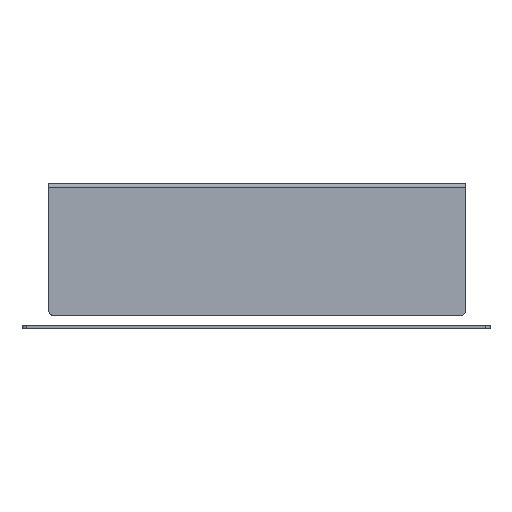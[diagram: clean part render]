
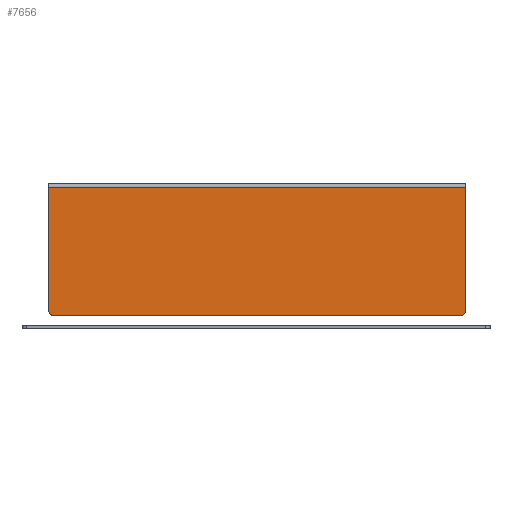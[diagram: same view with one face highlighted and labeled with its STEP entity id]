
A CAD part, front view. The second image highlights one B-rep face of the part: STEP entity #7656.
In plain terms, the highlighted planar face has unit normal (0, -1, 0).
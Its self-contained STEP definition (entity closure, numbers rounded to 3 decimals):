
#7329 = PLANE('',#7330);
#7330 = AXIS2_PLACEMENT_3D('',#7331,#7332,#7333);
#7331 = CARTESIAN_POINT('',(-3.,1.5,56.));
#7332 = DIRECTION('',(1.,0.,0.));
#7333 = DIRECTION('',(0.,0.,-1.));
#7354 = VERTEX_POINT('',#7355);
#7355 = CARTESIAN_POINT('',(-3.,0.5,56.));
#7381 = EDGE_CURVE('',#7354,#7382,#7384,.T.);
#7382 = VERTEX_POINT('',#7383);
#7383 = CARTESIAN_POINT('',(-3.,0.5,1.));
#7384 = SURFACE_CURVE('',#7385,(#7389,#7396),.PCURVE_S1.);
#7385 = LINE('',#7386,#7387);
#7386 = CARTESIAN_POINT('',(-3.,0.5,56.));
#7387 = VECTOR('',#7388,1.);
#7388 = DIRECTION('',(0.,0.,-1.));
#7389 = PCURVE('',#7329,#7390);
#7390 = DEFINITIONAL_REPRESENTATION('',(#7391),#7395);
#7391 = LINE('',#7392,#7393);
#7392 = CARTESIAN_POINT('',(0.,-1.));
#7393 = VECTOR('',#7394,1.);
#7394 = DIRECTION('',(1.,0.));
#7395 = ( GEOMETRIC_REPRESENTATION_CONTEXT(2) 
PARAMETRIC_REPRESENTATION_CONTEXT() REPRESENTATION_CONTEXT('2D SPACE',''
  ) );
#7396 = PCURVE('',#7397,#7402);
#7397 = PLANE('',#7398);
#7398 = AXIS2_PLACEMENT_3D('',#7399,#7400,#7401);
#7399 = CARTESIAN_POINT('',(90.,0.5,27.5));
#7400 = DIRECTION('',(0.,-1.,0.));
#7401 = DIRECTION('',(1.,0.,0.));
#7402 = DEFINITIONAL_REPRESENTATION('',(#7403),#7407);
#7403 = LINE('',#7404,#7405);
#7404 = CARTESIAN_POINT('',(-93.,28.5));
#7405 = VECTOR('',#7406,1.);
#7406 = DIRECTION('',(0.,-1.));
#7407 = ( GEOMETRIC_REPRESENTATION_CONTEXT(2) 
PARAMETRIC_REPRESENTATION_CONTEXT() REPRESENTATION_CONTEXT('2D SPACE',''
  ) );
#7423 = CYLINDRICAL_SURFACE('',#7424,2.);
#7424 = AXIS2_PLACEMENT_3D('',#7425,#7426,#7427);
#7425 = CARTESIAN_POINT('',(-1.,1.5,1.));
#7426 = DIRECTION('',(0.,-1.,0.));
#7427 = DIRECTION('',(-1.,0.,0.));
#7479 = PLANE('',#7480);
#7480 = AXIS2_PLACEMENT_3D('',#7481,#7482,#7483);
#7481 = CARTESIAN_POINT('',(-3.,1.5,-1.));
#7482 = DIRECTION('',(0.,0.,1.));
#7483 = DIRECTION('',(1.,0.,0.));
#7508 = CYLINDRICAL_SURFACE('',#7509,2.);
#7509 = AXIS2_PLACEMENT_3D('',#7510,#7511,#7512);
#7510 = CARTESIAN_POINT('',(181.,1.5,1.));
#7511 = DIRECTION('',(0.,-1.,0.));
#7512 = DIRECTION('',(0.,0.,-1.));
#7536 = PLANE('',#7537);
#7537 = AXIS2_PLACEMENT_3D('',#7538,#7539,#7540);
#7538 = CARTESIAN_POINT('',(183.,1.5,-1.));
#7539 = DIRECTION('',(-1.,0.,0.));
#7540 = DIRECTION('',(0.,0.,1.));
#7619 = CYLINDRICAL_SURFACE('',#7620,2.);
#7620 = AXIS2_PLACEMENT_3D('',#7621,#7622,#7623);
#7621 = CARTESIAN_POINT('',(-3.,2.5,56.));
#7622 = DIRECTION('',(1.,0.,0.));
#7623 = DIRECTION('',(0.,0.,1.));
#7656 = ADVANCED_FACE('',(#7657),#7397,.T.);
#7657 = FACE_BOUND('',#7658,.T.);
#7658 = EDGE_LOOP('',(#7659,#7660,#7684,#7707,#7731,#7754));
#7659 = ORIENTED_EDGE('',*,*,#7381,.T.);
#7660 = ORIENTED_EDGE('',*,*,#7661,.T.);
#7661 = EDGE_CURVE('',#7382,#7662,#7664,.T.);
#7662 = VERTEX_POINT('',#7663);
#7663 = CARTESIAN_POINT('',(-1.,0.5,-1.));
#7664 = SURFACE_CURVE('',#7665,(#7670,#7677),.PCURVE_S1.);
#7665 = CIRCLE('',#7666,2.);
#7666 = AXIS2_PLACEMENT_3D('',#7667,#7668,#7669);
#7667 = CARTESIAN_POINT('',(-1.,0.5,1.));
#7668 = DIRECTION('',(0.,-1.,0.));
#7669 = DIRECTION('',(0.,0.,-1.));
#7670 = PCURVE('',#7397,#7671);
#7671 = DEFINITIONAL_REPRESENTATION('',(#7672),#7676);
#7672 = CIRCLE('',#7673,2.);
#7673 = AXIS2_PLACEMENT_2D('',#7674,#7675);
#7674 = CARTESIAN_POINT('',(-91.,-26.5));
#7675 = DIRECTION('',(0.,-1.));
#7676 = ( GEOMETRIC_REPRESENTATION_CONTEXT(2) 
PARAMETRIC_REPRESENTATION_CONTEXT() REPRESENTATION_CONTEXT('2D SPACE',''
  ) );
#7677 = PCURVE('',#7423,#7678);
#7678 = DEFINITIONAL_REPRESENTATION('',(#7679),#7683);
#7679 = LINE('',#7680,#7681);
#7680 = CARTESIAN_POINT('',(-4.712,1.));
#7681 = VECTOR('',#7682,1.);
#7682 = DIRECTION('',(1.,0.));
#7683 = ( GEOMETRIC_REPRESENTATION_CONTEXT(2) 
PARAMETRIC_REPRESENTATION_CONTEXT() REPRESENTATION_CONTEXT('2D SPACE',''
  ) );
#7684 = ORIENTED_EDGE('',*,*,#7685,.T.);
#7685 = EDGE_CURVE('',#7662,#7686,#7688,.T.);
#7686 = VERTEX_POINT('',#7687);
#7687 = CARTESIAN_POINT('',(181.,0.5,-1.));
#7688 = SURFACE_CURVE('',#7689,(#7693,#7700),.PCURVE_S1.);
#7689 = LINE('',#7690,#7691);
#7690 = CARTESIAN_POINT('',(-3.,0.5,-1.));
#7691 = VECTOR('',#7692,1.);
#7692 = DIRECTION('',(1.,0.,0.));
#7693 = PCURVE('',#7397,#7694);
#7694 = DEFINITIONAL_REPRESENTATION('',(#7695),#7699);
#7695 = LINE('',#7696,#7697);
#7696 = CARTESIAN_POINT('',(-93.,-28.5));
#7697 = VECTOR('',#7698,1.);
#7698 = DIRECTION('',(1.,0.));
#7699 = ( GEOMETRIC_REPRESENTATION_CONTEXT(2) 
PARAMETRIC_REPRESENTATION_CONTEXT() REPRESENTATION_CONTEXT('2D SPACE',''
  ) );
#7700 = PCURVE('',#7479,#7701);
#7701 = DEFINITIONAL_REPRESENTATION('',(#7702),#7706);
#7702 = LINE('',#7703,#7704);
#7703 = CARTESIAN_POINT('',(0.,-1.));
#7704 = VECTOR('',#7705,1.);
#7705 = DIRECTION('',(1.,0.));
#7706 = ( GEOMETRIC_REPRESENTATION_CONTEXT(2) 
PARAMETRIC_REPRESENTATION_CONTEXT() REPRESENTATION_CONTEXT('2D SPACE',''
  ) );
#7707 = ORIENTED_EDGE('',*,*,#7708,.T.);
#7708 = EDGE_CURVE('',#7686,#7709,#7711,.T.);
#7709 = VERTEX_POINT('',#7710);
#7710 = CARTESIAN_POINT('',(183.,0.5,1.));
#7711 = SURFACE_CURVE('',#7712,(#7717,#7724),.PCURVE_S1.);
#7712 = CIRCLE('',#7713,2.);
#7713 = AXIS2_PLACEMENT_3D('',#7714,#7715,#7716);
#7714 = CARTESIAN_POINT('',(181.,0.5,1.));
#7715 = DIRECTION('',(0.,-1.,0.));
#7716 = DIRECTION('',(0.,0.,-1.));
#7717 = PCURVE('',#7397,#7718);
#7718 = DEFINITIONAL_REPRESENTATION('',(#7719),#7723);
#7719 = CIRCLE('',#7720,2.);
#7720 = AXIS2_PLACEMENT_2D('',#7721,#7722);
#7721 = CARTESIAN_POINT('',(91.,-26.5));
#7722 = DIRECTION('',(0.,-1.));
#7723 = ( GEOMETRIC_REPRESENTATION_CONTEXT(2) 
PARAMETRIC_REPRESENTATION_CONTEXT() REPRESENTATION_CONTEXT('2D SPACE',''
  ) );
#7724 = PCURVE('',#7508,#7725);
#7725 = DEFINITIONAL_REPRESENTATION('',(#7726),#7730);
#7726 = LINE('',#7727,#7728);
#7727 = CARTESIAN_POINT('',(0.,1.));
#7728 = VECTOR('',#7729,1.);
#7729 = DIRECTION('',(1.,0.));
#7730 = ( GEOMETRIC_REPRESENTATION_CONTEXT(2) 
PARAMETRIC_REPRESENTATION_CONTEXT() REPRESENTATION_CONTEXT('2D SPACE',''
  ) );
#7731 = ORIENTED_EDGE('',*,*,#7732,.T.);
#7732 = EDGE_CURVE('',#7709,#7733,#7735,.T.);
#7733 = VERTEX_POINT('',#7734);
#7734 = CARTESIAN_POINT('',(183.,0.5,56.));
#7735 = SURFACE_CURVE('',#7736,(#7740,#7747),.PCURVE_S1.);
#7736 = LINE('',#7737,#7738);
#7737 = CARTESIAN_POINT('',(183.,0.5,-1.));
#7738 = VECTOR('',#7739,1.);
#7739 = DIRECTION('',(0.,0.,1.));
#7740 = PCURVE('',#7397,#7741);
#7741 = DEFINITIONAL_REPRESENTATION('',(#7742),#7746);
#7742 = LINE('',#7743,#7744);
#7743 = CARTESIAN_POINT('',(93.,-28.5));
#7744 = VECTOR('',#7745,1.);
#7745 = DIRECTION('',(0.,1.));
#7746 = ( GEOMETRIC_REPRESENTATION_CONTEXT(2) 
PARAMETRIC_REPRESENTATION_CONTEXT() REPRESENTATION_CONTEXT('2D SPACE',''
  ) );
#7747 = PCURVE('',#7536,#7748);
#7748 = DEFINITIONAL_REPRESENTATION('',(#7749),#7753);
#7749 = LINE('',#7750,#7751);
#7750 = CARTESIAN_POINT('',(0.,-1.));
#7751 = VECTOR('',#7752,1.);
#7752 = DIRECTION('',(1.,0.));
#7753 = ( GEOMETRIC_REPRESENTATION_CONTEXT(2) 
PARAMETRIC_REPRESENTATION_CONTEXT() REPRESENTATION_CONTEXT('2D SPACE',''
  ) );
#7754 = ORIENTED_EDGE('',*,*,#7755,.F.);
#7755 = EDGE_CURVE('',#7354,#7733,#7756,.T.);
#7756 = SURFACE_CURVE('',#7757,(#7761,#7768),.PCURVE_S1.);
#7757 = LINE('',#7758,#7759);
#7758 = CARTESIAN_POINT('',(-3.,0.5,56.));
#7759 = VECTOR('',#7760,1.);
#7760 = DIRECTION('',(1.,0.,0.));
#7761 = PCURVE('',#7397,#7762);
#7762 = DEFINITIONAL_REPRESENTATION('',(#7763),#7767);
#7763 = LINE('',#7764,#7765);
#7764 = CARTESIAN_POINT('',(-93.,28.5));
#7765 = VECTOR('',#7766,1.);
#7766 = DIRECTION('',(1.,0.));
#7767 = ( GEOMETRIC_REPRESENTATION_CONTEXT(2) 
PARAMETRIC_REPRESENTATION_CONTEXT() REPRESENTATION_CONTEXT('2D SPACE',''
  ) );
#7768 = PCURVE('',#7619,#7769);
#7769 = DEFINITIONAL_REPRESENTATION('',(#7770),#7774);
#7770 = LINE('',#7771,#7772);
#7771 = CARTESIAN_POINT('',(1.571,0.));
#7772 = VECTOR('',#7773,1.);
#7773 = DIRECTION('',(0.,1.));
#7774 = ( GEOMETRIC_REPRESENTATION_CONTEXT(2) 
PARAMETRIC_REPRESENTATION_CONTEXT() REPRESENTATION_CONTEXT('2D SPACE',''
  ) );
